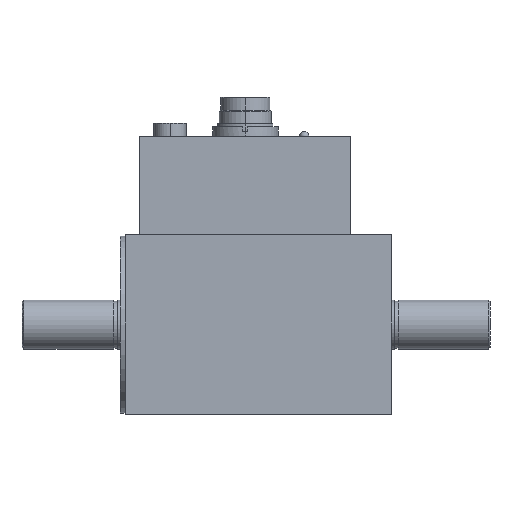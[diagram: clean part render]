
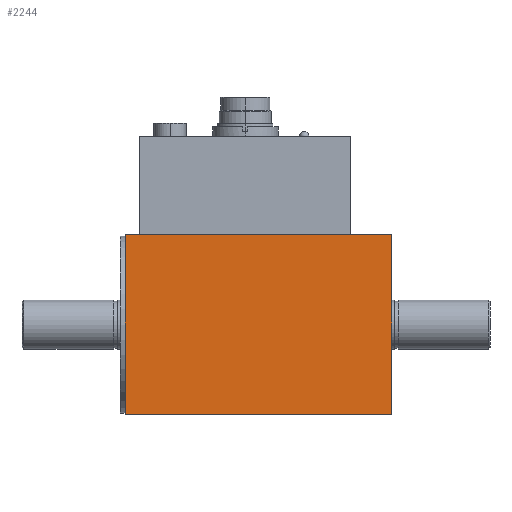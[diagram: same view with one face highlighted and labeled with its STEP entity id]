
A CAD part, top view. The second image highlights one B-rep face of the part: STEP entity #2244.
In plain terms, the highlighted planar face has unit normal (0, 0, 1).
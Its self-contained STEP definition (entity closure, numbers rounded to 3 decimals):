
#2244=ADVANCED_FACE('',(#4758),#4759,.T.);
#4758=FACE_OUTER_BOUND('',#8046,.T.);
#4759=PLANE('',#8047);
#8046=EDGE_LOOP('',(#14556,#14557,#14558,#14559));
#8047=AXIS2_PLACEMENT_3D('',#14560,#14561,#14562);
#14556=ORIENTED_EDGE('',*,*,#18145,.F.);
#14557=ORIENTED_EDGE('',*,*,#18677,.F.);
#14558=ORIENTED_EDGE('',*,*,#18688,.F.);
#14559=ORIENTED_EDGE('',*,*,#18751,.F.);
#14560=CARTESIAN_POINT('',(73.85,0.,27.5));
#14561=DIRECTION('',(0.0,0.0,1.0));
#14562=DIRECTION('',(1.0,-0.0,0.0));
#18145=EDGE_CURVE('',#22163,#22164,#22165,.T.);
#18677=EDGE_CURVE('',#22945,#22163,#22946,.T.);
#18688=EDGE_CURVE('',#22958,#22945,#22959,.T.);
#18751=EDGE_CURVE('',#22164,#22958,#23023,.T.);
#22163=VERTEX_POINT('',#27986);
#22164=VERTEX_POINT('',#27987);
#22165=LINE('',#27988,#27989);
#22945=VERTEX_POINT('',#29421);
#22946=LINE('',#29422,#29423);
#22958=VERTEX_POINT('',#29437);
#22959=LINE('',#29438,#29439);
#23023=LINE('',#29506,#29507);
#27986=CARTESIAN_POINT('',(33.1,27.5,27.5));
#27987=CARTESIAN_POINT('',(114.6,27.5,27.5));
#27988=CARTESIAN_POINT('',(33.1,27.5,27.5));
#27989=VECTOR('',#32852,81.5);
#29421=CARTESIAN_POINT('',(33.1,-27.5,27.5));
#29422=CARTESIAN_POINT('',(33.1,-27.5,27.5));
#29423=VECTOR('',#33184,55.0);
#29437=CARTESIAN_POINT('',(114.6,-27.5,27.5));
#29438=CARTESIAN_POINT('',(114.6,-27.5,27.5));
#29439=VECTOR('',#33205,81.5);
#29506=CARTESIAN_POINT('',(114.6,27.5,27.5));
#29507=VECTOR('',#33275,55.0);
#32852=DIRECTION('',(1.0,0.0,0.0));
#33184=DIRECTION('',(0.0,1.0,0.0));
#33205=DIRECTION('',(-1.0,0.0,0.0));
#33275=DIRECTION('',(0.0,-1.0,0.0));
